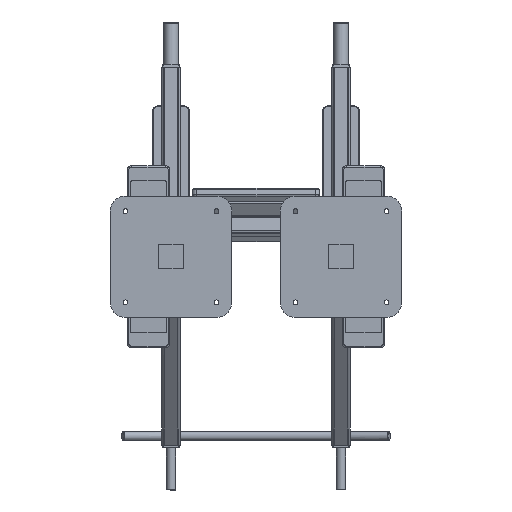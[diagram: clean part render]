
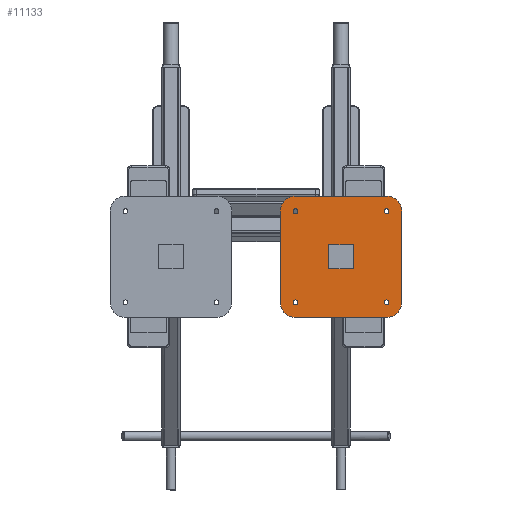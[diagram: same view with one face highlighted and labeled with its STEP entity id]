
A CAD part, front view. The second image highlights one B-rep face of the part: STEP entity #11133.
In plain terms, the highlighted planar face has unit normal (0, -1, 0).
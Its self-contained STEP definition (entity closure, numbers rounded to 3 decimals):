
#33=FACE_BOUND('',#1910,.T.);
#34=FACE_BOUND('',#1911,.T.);
#35=FACE_BOUND('',#1912,.T.);
#36=FACE_BOUND('',#1913,.T.);
#37=FACE_BOUND('',#1914,.T.);
#632=CIRCLE('',#12066,50.);
#633=CIRCLE('',#12067,50.);
#634=CIRCLE('',#12068,50.);
#635=CIRCLE('',#12069,50.);
#636=CIRCLE('',#12070,8.);
#637=CIRCLE('',#12071,8.);
#638=CIRCLE('',#12072,8.);
#639=CIRCLE('',#12073,8.);
#1224=FACE_OUTER_BOUND('',#1909,.T.);
#1909=EDGE_LOOP('',(#8161,#8162,#8163,#8164,#8165,#8166,#8167,#8168));
#1910=EDGE_LOOP('',(#8169,#8170,#8171,#8172));
#1911=EDGE_LOOP('',(#8173));
#1912=EDGE_LOOP('',(#8174));
#1913=EDGE_LOOP('',(#8175));
#1914=EDGE_LOOP('',(#8176));
#2754=LINE('',#17879,#3753);
#2755=LINE('',#17883,#3754);
#2756=LINE('',#17887,#3755);
#2757=LINE('',#17891,#3756);
#2758=LINE('',#17895,#3757);
#2759=LINE('',#17897,#3758);
#2760=LINE('',#17899,#3759);
#2761=LINE('',#17900,#3760);
#3753=VECTOR('',#14078,10.);
#3754=VECTOR('',#14081,10.);
#3755=VECTOR('',#14084,10.);
#3756=VECTOR('',#14087,10.);
#3757=VECTOR('',#14090,10.);
#3758=VECTOR('',#14091,10.);
#3759=VECTOR('',#14092,10.);
#3760=VECTOR('',#14093,10.);
#4822=VERTEX_POINT('',#17877);
#4823=VERTEX_POINT('',#17878);
#4824=VERTEX_POINT('',#17880);
#4825=VERTEX_POINT('',#17882);
#4826=VERTEX_POINT('',#17884);
#4827=VERTEX_POINT('',#17886);
#4828=VERTEX_POINT('',#17888);
#4829=VERTEX_POINT('',#17890);
#4830=VERTEX_POINT('',#17893);
#4831=VERTEX_POINT('',#17894);
#4832=VERTEX_POINT('',#17896);
#4833=VERTEX_POINT('',#17898);
#4834=VERTEX_POINT('',#17901);
#4835=VERTEX_POINT('',#17903);
#4836=VERTEX_POINT('',#17905);
#4837=VERTEX_POINT('',#17907);
#6038=EDGE_CURVE('',#4822,#4823,#2754,.T.);
#6039=EDGE_CURVE('',#4823,#4824,#632,.T.);
#6040=EDGE_CURVE('',#4824,#4825,#2755,.T.);
#6041=EDGE_CURVE('',#4825,#4826,#633,.T.);
#6042=EDGE_CURVE('',#4826,#4827,#2756,.T.);
#6043=EDGE_CURVE('',#4827,#4828,#634,.T.);
#6044=EDGE_CURVE('',#4828,#4829,#2757,.T.);
#6045=EDGE_CURVE('',#4829,#4822,#635,.T.);
#6046=EDGE_CURVE('',#4830,#4831,#2758,.T.);
#6047=EDGE_CURVE('',#4831,#4832,#2759,.T.);
#6048=EDGE_CURVE('',#4832,#4833,#2760,.T.);
#6049=EDGE_CURVE('',#4833,#4830,#2761,.T.);
#6050=EDGE_CURVE('',#4834,#4834,#636,.T.);
#6051=EDGE_CURVE('',#4835,#4835,#637,.T.);
#6052=EDGE_CURVE('',#4836,#4836,#638,.T.);
#6053=EDGE_CURVE('',#4837,#4837,#639,.T.);
#8161=ORIENTED_EDGE('',*,*,#6038,.T.);
#8162=ORIENTED_EDGE('',*,*,#6039,.T.);
#8163=ORIENTED_EDGE('',*,*,#6040,.T.);
#8164=ORIENTED_EDGE('',*,*,#6041,.T.);
#8165=ORIENTED_EDGE('',*,*,#6042,.T.);
#8166=ORIENTED_EDGE('',*,*,#6043,.T.);
#8167=ORIENTED_EDGE('',*,*,#6044,.T.);
#8168=ORIENTED_EDGE('',*,*,#6045,.T.);
#8169=ORIENTED_EDGE('',*,*,#6046,.T.);
#8170=ORIENTED_EDGE('',*,*,#6047,.T.);
#8171=ORIENTED_EDGE('',*,*,#6048,.T.);
#8172=ORIENTED_EDGE('',*,*,#6049,.T.);
#8173=ORIENTED_EDGE('',*,*,#6050,.T.);
#8174=ORIENTED_EDGE('',*,*,#6051,.T.);
#8175=ORIENTED_EDGE('',*,*,#6052,.T.);
#8176=ORIENTED_EDGE('',*,*,#6053,.T.);
#10453=PLANE('',#12065);
#11133=ADVANCED_FACE('',(#1224,#33,#34,#35,#36,#37),#10453,.F.);
#12065=AXIS2_PLACEMENT_3D('',#17876,#14076,#14077);
#12066=AXIS2_PLACEMENT_3D('',#17881,#14079,#14080);
#12067=AXIS2_PLACEMENT_3D('',#17885,#14082,#14083);
#12068=AXIS2_PLACEMENT_3D('',#17889,#14085,#14086);
#12069=AXIS2_PLACEMENT_3D('',#17892,#14088,#14089);
#12070=AXIS2_PLACEMENT_3D('',#17902,#14094,#14095);
#12071=AXIS2_PLACEMENT_3D('',#17904,#14096,#14097);
#12072=AXIS2_PLACEMENT_3D('',#17906,#14098,#14099);
#12073=AXIS2_PLACEMENT_3D('',#17908,#14100,#14101);
#14076=DIRECTION('center_axis',(0.,1.,0.));
#14077=DIRECTION('ref_axis',(0.,0.,
1.));
#14078=DIRECTION('',(1.,0.,0.));
#14079=DIRECTION('center_axis',(0.,-1.,0.));
#14080=DIRECTION('ref_axis',(0.,0.,
-1.));
#14081=DIRECTION('',(0.,0.,1.));
#14082=DIRECTION('center_axis',(0.,-1.,0.));
#14083=DIRECTION('ref_axis',(1.,0.,0.));
#14084=DIRECTION('',(-1.,0.,0.));
#14085=DIRECTION('center_axis',(0.,-1.,0.));
#14086=DIRECTION('ref_axis',(0.,0.,
1.));
#14087=DIRECTION('',(0.,0.,-1.));
#14088=DIRECTION('center_axis',(0.,-1.,0.));
#14089=DIRECTION('ref_axis',(-1.,0.,0.));
#14090=DIRECTION('',(0.,0.,1.));
#14091=DIRECTION('',(1.,0.,0.));
#14092=DIRECTION('',(0.,0.,-1.));
#14093=DIRECTION('',(-1.,0.,0.));
#14094=DIRECTION('center_axis',(0.,1.,0.));
#14095=DIRECTION('ref_axis',(-1.,0.,0.));
#14096=DIRECTION('center_axis',(0.,1.,0.));
#14097=DIRECTION('ref_axis',(-1.,0.,0.));
#14098=DIRECTION('center_axis',(0.,1.,0.));
#14099=DIRECTION('ref_axis',(-1.,0.,0.));
#14100=DIRECTION('center_axis',(0.,1.,0.));
#14101=DIRECTION('ref_axis',(-1.,0.,0.));
#17876=CARTESIAN_POINT('Origin',(346.045,-984.505,0.));
#17877=CARTESIAN_POINT('',(196.045,-984.505,-200.));
#17878=CARTESIAN_POINT('',(496.045,-984.505,-200.));
#17879=CARTESIAN_POINT('',(196.045,-984.505,-200.));
#17880=CARTESIAN_POINT('',(546.045,-984.505,-150.));
#17881=CARTESIAN_POINT('Origin',(496.045,-984.505,-150.));
#17882=CARTESIAN_POINT('',(546.045,-984.505,150.));
#17883=CARTESIAN_POINT('',(546.045,-984.505,-150.));
#17884=CARTESIAN_POINT('',(496.045,-984.505,200.));
#17885=CARTESIAN_POINT('Origin',(496.045,-984.505,150.));
#17886=CARTESIAN_POINT('',(196.045,-984.505,200.));
#17887=CARTESIAN_POINT('',(496.045,-984.505,200.));
#17888=CARTESIAN_POINT('',(146.045,-984.505,150.));
#17889=CARTESIAN_POINT('Origin',(196.045,-984.505,150.));
#17890=CARTESIAN_POINT('',(146.045,-984.505,-150.));
#17891=CARTESIAN_POINT('',(146.045,-984.505,150.));
#17892=CARTESIAN_POINT('Origin',(196.045,-984.505,-150.));
#17893=CARTESIAN_POINT('',(306.045,-984.505,-40.));
#17894=CARTESIAN_POINT('',(306.045,-984.505,40.));
#17895=CARTESIAN_POINT('',(306.045,-984.505,20.));
#17896=CARTESIAN_POINT('',(386.045,-984.505,40.));
#17897=CARTESIAN_POINT('',(366.045,-984.505,40.));
#17898=CARTESIAN_POINT('',(386.045,-984.505,-40.));
#17899=CARTESIAN_POINT('',(386.045,-984.505,-20.));
#17900=CARTESIAN_POINT('',(326.045,-984.505,-40.));
#17901=CARTESIAN_POINT('',(496.045,-984.505,-142.));
#17902=CARTESIAN_POINT('Origin',(496.045,-984.505,-150.));
#17903=CARTESIAN_POINT('',(496.045,-984.505,158.));
#17904=CARTESIAN_POINT('Origin',(496.045,-984.505,150.));
#17905=CARTESIAN_POINT('',(196.045,-984.505,158.));
#17906=CARTESIAN_POINT('Origin',(196.045,-984.505,150.));
#17907=CARTESIAN_POINT('',(196.045,-984.505,-142.));
#17908=CARTESIAN_POINT('Origin',(196.045,-984.505,-150.));
